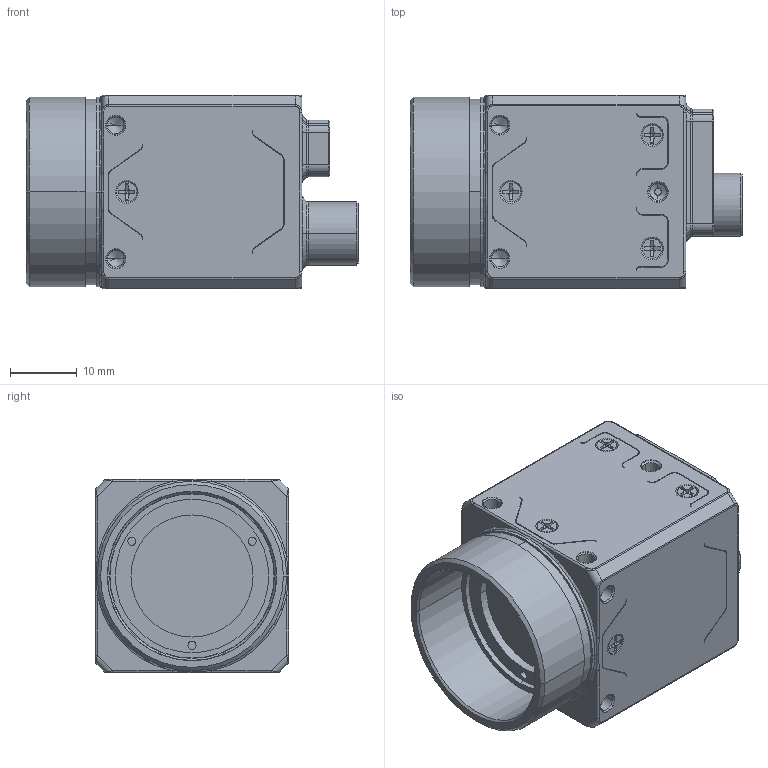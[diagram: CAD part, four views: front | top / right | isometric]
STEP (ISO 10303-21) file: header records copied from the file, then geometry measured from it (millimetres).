
FILE_DESCRIPTION((''),'2;1');
FILE_NAME('00-MV-CT050-60UM_ASM','2025-11-13T10:04:16',('sunli10'),(''),'CREO PARAMETRIC BY PTC INC, 2020044','CREO PARAMETRIC BY PTC INC, 2020044','');
FILE_SCHEMA(('CONFIG_CONTROL_DESIGN'));
Products named in the file (1): 00-MV-CT050-60UM_ASM
Bounding box: 49.76 x 29 x 29 mm (x, y, z)
Volume: 27030.9 mm3; surface area: 16305.6 mm2
Topology: 2 solids, 109 shells, 4785 faces, 13413 edges, 8727 vertices
Faces by surface type: plane 2742, cylinder 1557, cone 362, torus 72, bspline 50, sphere 2
Entity records: 164270 total; most frequent: CARTESIAN_POINT 39919, ORIENTED_EDGE 26492, DIRECTION 25532, EDGE_CURVE 13359, VERTEX_POINT 8725, VECTOR 8552, LINE 8552, AXIS2_PLACEMENT_3D 8490
